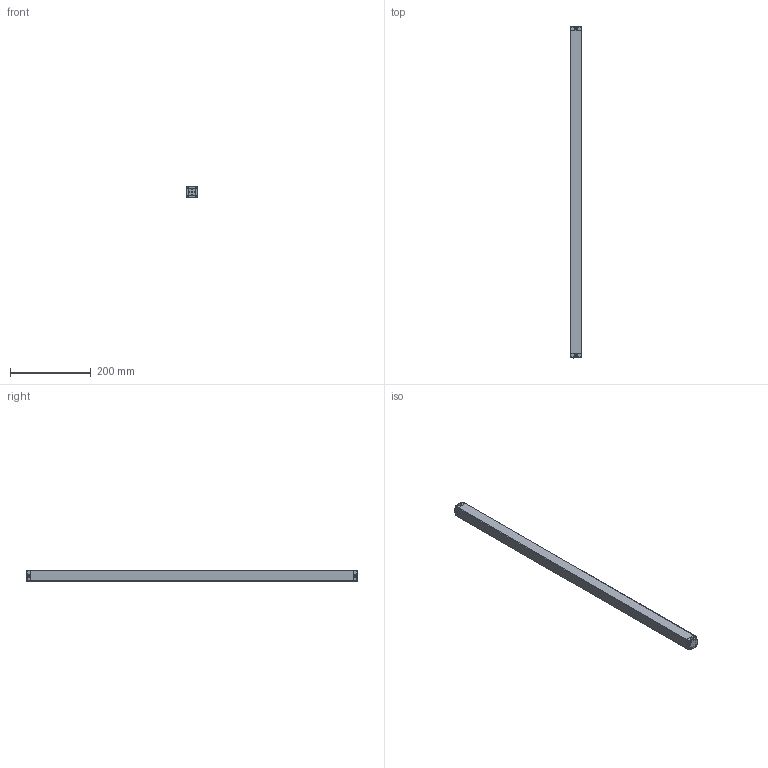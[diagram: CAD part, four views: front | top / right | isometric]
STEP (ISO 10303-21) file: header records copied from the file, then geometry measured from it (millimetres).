
FILE_DESCRIPTION((''),'2;1');
FILE_NAME('ELD00_ASM','2021-07-20T09:51:31',('18720616900'),(''),'CREO PARAMETRIC BY PTC INC, 2019010','CREO PARAMETRIC BY PTC INC, 2019010','');
FILE_SCHEMA(('CONFIG_CONTROL_DESIGN'));
Length unit declared in the file: millimetre
Products named in the file (6): ELD--00; ELD--000; ST-3-12; ELD00_ASM
Assembly tree (12 placements, depth 2):
  ELD00_ASM
    ELD--00
    ELD--000
    ELD--000
    ELD--000
    ST-3-12  x8
Bounding box: 28 x 822 x 28 mm (x, y, z)
Volume: 640243.6 mm3; surface area: 135926.1 mm2
Topology: 12 solids, 12 shells, 792 faces, 2082 edges, 1296 vertices
Faces by surface type: plane 236, cone 172, bspline 168, cylinder 156, torus 44, sphere 16
Entity records: 14414 total; most frequent: CARTESIAN_POINT 6863, ORIENTED_EDGE 1584, DIRECTION 1469, EDGE_CURVE 792, AXIS2_PLACEMENT_3D 520, VERTEX_POINT 491, VECTOR 429, LINE 429
